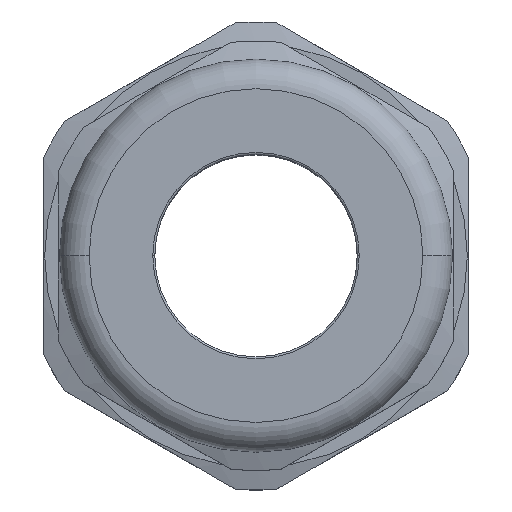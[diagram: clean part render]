
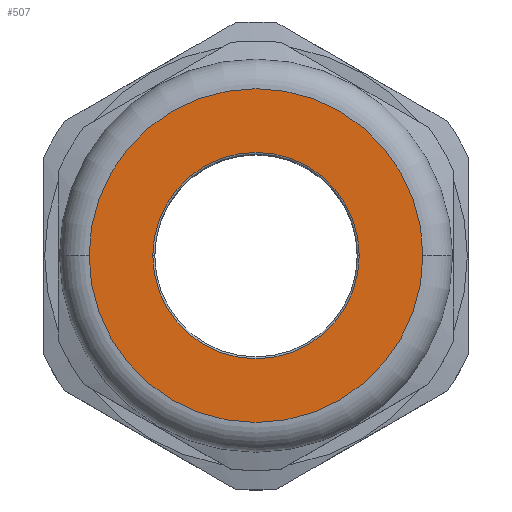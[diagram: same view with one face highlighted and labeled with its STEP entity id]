
A CAD part, top view. The second image highlights one B-rep face of the part: STEP entity #507.
In plain terms, the highlighted planar face has unit normal (0, 0, 1).
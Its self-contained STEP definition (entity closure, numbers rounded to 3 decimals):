
#125 = VERTEX_POINT ( 'NONE', #1066 ) ;
#127 = VERTEX_POINT ( 'NONE', #1064 ) ;
#129 = EDGE_CURVE ( 'NONE', #125, #127, #1062, .T. ) ;
#135 = EDGE_CURVE ( 'NONE', #251, #250, #1203, .T. ) ;
#250 = VERTEX_POINT ( 'NONE', #1571 ) ;
#251 = VERTEX_POINT ( 'NONE', #1570 ) ;
#372 = EDGE_CURVE ( 'NONE', #127, #125, #1749, .T. ) ;
#501 = EDGE_LOOP ( 'NONE', ( #505, #502 ) ) ;
#502 = ORIENTED_EDGE ( 'NONE', *, *, #506, .T. ) ;
#503 = ORIENTED_EDGE ( 'NONE', *, *, #129, .F. ) ;
#504 = EDGE_LOOP ( 'NONE', ( #503, #593 ) ) ;
#505 = ORIENTED_EDGE ( 'NONE', *, *, #135, .T. ) ;
#506 = EDGE_CURVE ( 'NONE', #250, #251, #2082, .T. ) ;
#507 = ADVANCED_FACE ( 'NONE', ( #2104, #2103 ), #2102, .T. ) ;
#593 = ORIENTED_EDGE ( 'NONE', *, *, #372, .F. ) ;
#1053 = CARTESIAN_POINT ( 'NONE',  ( 0., 0., 33. ) ) ;
#1058 = DIRECTION ( 'NONE',  ( -1., 0., 0. ) ) ;
#1059 = DIRECTION ( 'NONE',  ( 0., 0., -1. ) ) ;
#1060 = CARTESIAN_POINT ( 'NONE',  ( 0., 0., 33. ) ) ;
#1061 = AXIS2_PLACEMENT_3D ( 'NONE', #1060, #1059, #1058 ) ;
#1062 = CIRCLE ( 'NONE', #1061, 16.9 ) ;
#1064 = CARTESIAN_POINT ( 'NONE',  ( 16.9, 0., 33. ) ) ;
#1066 = CARTESIAN_POINT ( 'NONE',  ( -16.9, 0., 33. ) ) ;
#1200 = DIRECTION ( 'NONE',  ( -1., 0., 0. ) ) ;
#1201 = DIRECTION ( 'NONE',  ( 0., 0., -1. ) ) ;
#1202 = AXIS2_PLACEMENT_3D ( 'NONE', #1053, #1201, #1200 ) ;
#1203 = CIRCLE ( 'NONE', #1202, 10.45 ) ;
#1570 = CARTESIAN_POINT ( 'NONE',  ( -10.45, 0., 33. ) ) ;
#1571 = CARTESIAN_POINT ( 'NONE',  ( 10.45, 0., 33. ) ) ;
#1745 = DIRECTION ( 'NONE',  ( -1., 0., 0. ) ) ;
#1746 = DIRECTION ( 'NONE',  ( 0., 0., -1. ) ) ;
#1747 = CARTESIAN_POINT ( 'NONE',  ( 0., 0., 33. ) ) ;
#1748 = AXIS2_PLACEMENT_3D ( 'NONE', #1747, #1746, #1745 ) ;
#1749 = CIRCLE ( 'NONE', #1748, 16.9 ) ;
#2082 = CIRCLE ( 'NONE', #2108, 10.45 ) ;
#2098 = DIRECTION ( 'NONE',  ( 1., 0., 0. ) ) ;
#2099 = DIRECTION ( 'NONE',  ( 0., 0., 1. ) ) ;
#2100 = CARTESIAN_POINT ( 'NONE',  ( 0., 16.9, 33. ) ) ;
#2101 = AXIS2_PLACEMENT_3D ( 'NONE', #2100, #2099, #2098 ) ;
#2102 = PLANE ( 'NONE',  #2101 ) ;
#2103 = FACE_OUTER_BOUND ( 'NONE', #504, .T. ) ;
#2104 = FACE_BOUND ( 'NONE', #501, .T. ) ;
#2105 = DIRECTION ( 'NONE',  ( -1., 0., 0. ) ) ;
#2106 = DIRECTION ( 'NONE',  ( 0., 0., -1. ) ) ;
#2107 = CARTESIAN_POINT ( 'NONE',  ( 0., 0., 33. ) ) ;
#2108 = AXIS2_PLACEMENT_3D ( 'NONE', #2107, #2106, #2105 ) ;
